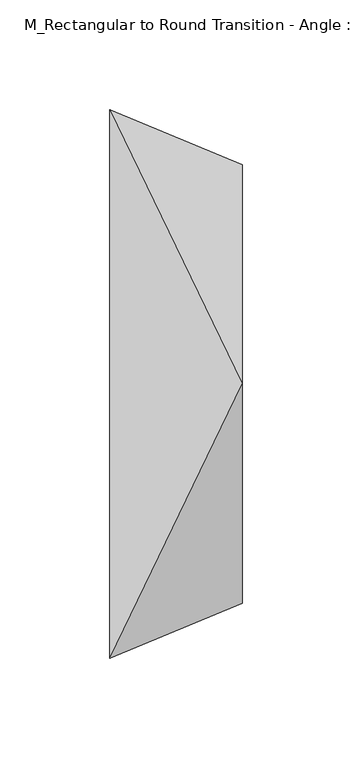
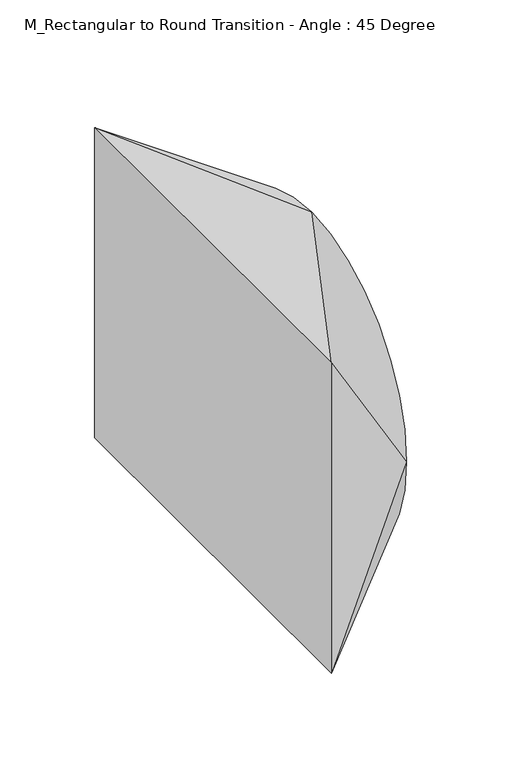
"""IFC4 building model written with IfcOpenShell, lengths in millimetres: duct fitting geometry, M_Rectangular to Round Transition - Angle : 45 Degree."""

from ifc_helpers import new_model, si_unit, frame, origin, place, context, project, spatial, circle_curve, source, transform, mapped, element, save
from ifc_brep_helpers import plane_surface, spline_surface, advanced_brep


def m_rectangular_to_round_transition_angle_45_degree_819e3a3e(model_context):
    return source(origin(), model_context, "Body", "AdvancedBrep", [
        advanced_brep(
        [(0.0, -125.0, -100.0), (0.0, -125.0, 100.0), (0.0, 125.0, 100.0), (0.0, 125.0, -100.0), (60.3553391, -100.0, -0.0013444), (60.3553391, 0.0, -100.0013444), (60.3553391, 100.0, -0.0013444), (60.3553391, 0.0, 99.9986556)],
        [
            (0, 1),
            (1, 2),
            (2, 3),
            (3, 0),
            (4, 5, circle_curve(frame((60.3553391, 0.0, -0.0013444), z_axis=(1.0, 0.0, 0.0), x_axis=(0.0, -1.0, 0.0)), 100.0)),
            (5, 6, circle_curve(frame((60.3553391, 0.0, -0.0013444), z_axis=(1.0, 0.0, 0.0), x_axis=(0.0, -1.0, 0.0)), 100.0)),
            (6, 7, circle_curve(frame((60.3553391, 0.0, -0.0013444), z_axis=(1.0, 0.0, 0.0), x_axis=(0.0, -1.0, 0.0)), 100.0)),
            (7, 4, circle_curve(frame((60.3553391, 0.0, -0.0013444), z_axis=(1.0, 0.0, 0.0), x_axis=(0.0, -1.0, 0.0)), 100.0)),
            (0, 4),
            (4, 1),
            (7, 1),
            (7, 2),
            (6, 2),
            (6, 3),
            (5, 3),
            (5, 0),
        ],
        [
            plane_surface(frame((0.0, 0.0, 0.0), z_axis=(-1.0, 0.0, 0.0), x_axis=(0.0, 1.0, 0.0))),
            plane_surface(frame((60.3553391, 0.0, -0.0013444), z_axis=(1.0, 0.0, 0.0), x_axis=(0.0, 1.0, 0.0))),
            plane_surface(frame((60.3553391, -100.0, -0.0013444), z_axis=(0.38268343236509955, -0.9238795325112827, 0.0), x_axis=(0.0, 0.0, 1.0))),
            spline_surface(2, 1, [[(60.3553391, -100.0, -0.0013444), (0.0, -125.0, 100.0)], [(60.3553391, -100.0, 99.9986556), (0.0, -125.0, 100.0)], [(60.3553391, 0.0, 99.9986556), (0.0, -125.0, 100.0)]], [3, 3], [2, 2], [0.0, 1.0], [0.0, 1.0], weights=[[1.0, 1.0], [0.7071067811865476, 0.7071067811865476], [1.0, 1.0]]),
            plane_surface(frame((60.3553391, 0.0, 99.9986556), z_axis=(2.227439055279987e-05, 0.0, 0.9999999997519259), x_axis=(0.0, 1.0, 0.0))),
            spline_surface(2, 1, [[(60.3553391, 0.0, 99.9986556), (0.0, 125.0, 100.0)], [(60.3553391, 100.0, 99.9986556), (0.0, 125.0, 100.0)], [(60.3553391, 100.0, -0.0013444), (0.0, 125.0, 100.0)]], [3, 3], [2, 2], [0.0, 1.0], [0.0, 1.0], weights=[[1.0, 1.0], [0.7071067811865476, 0.7071067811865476], [1.0, 1.0]]),
            plane_surface(frame((60.3553391, 100.0, -0.0013444), z_axis=(0.3826834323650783, 0.9238795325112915, 0.0), x_axis=(0.0, 0.0, -1.0))),
            spline_surface(2, 1, [[(60.3553391, 100.0, -0.0013444), (0.0, 125.0, -100.0)], [(60.3553391, 100.0, -100.0013444), (0.0, 125.0, -100.0)], [(60.3553391, 0.0, -100.0013444), (0.0, 125.0, -100.0)]], [3, 3], [2, 2], [0.0, 1.0], [0.0, 1.0], weights=[[1.0, 1.0], [0.7071067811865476, 0.7071067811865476], [1.0, 1.0]]),
            plane_surface(frame((60.3553391, 0.0, -100.0013444), z_axis=(-2.227439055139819e-05, 0.0, -0.9999999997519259), x_axis=(0.0, -1.0, 0.0))),
            spline_surface(2, 1, [[(60.3553391, 0.0, -100.0013444), (0.0, -125.0, -100.0)], [(60.3553391, -100.0, -100.0013444), (0.0, -125.0, -100.0)], [(60.3553391, -100.0, -0.0013444), (0.0, -125.0, -100.0)]], [3, 3], [2, 2], [0.0, 1.0], [0.0, 1.0], weights=[[1.0, 1.0], [0.7071067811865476, 0.7071067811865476], [1.0, 1.0]]),
        ],
        [
            (0, [[1, 2, 3, 4]]),
            (1, [[5, 6, 7, 8]]),
            (2, [[-1, 9, 10]]),
            (3, [[-8, 11, -10]]),
            (4, [[-2, -11, 12]]),
            (5, [[-7, 13, -12]]),
            (6, [[-3, -13, 14]]),
            (7, [[-6, 15, -14]]),
            (8, [[-4, -15, 16]]),
            (9, [[-5, -9, -16]]),
        ],
    ),
        advanced_brep(
        [(0.0, -125.0, -100.0), (0.0, -125.0, 100.0), (0.0, 125.0, 100.0), (0.0, 125.0, -100.0), (60.3553391, -100.0, -0.0013444), (60.3553391, 0.0, -100.0013444), (60.3553391, 100.0, -0.0013444), (60.3553391, 0.0, 99.9986556)],
        [
            (0, 1),
            (1, 2),
            (2, 3),
            (3, 0),
            (4, 5, circle_curve(frame((60.3553391, 0.0, -0.0013444), z_axis=(1.0, 0.0, 0.0), x_axis=(0.0, -1.0, 0.0)), 100.0)),
            (5, 6, circle_curve(frame((60.3553391, 0.0, -0.0013444), z_axis=(1.0, 0.0, 0.0), x_axis=(0.0, -1.0, 0.0)), 100.0)),
            (6, 7, circle_curve(frame((60.3553391, 0.0, -0.0013444), z_axis=(1.0, 0.0, 0.0), x_axis=(0.0, -1.0, 0.0)), 100.0)),
            (7, 4, circle_curve(frame((60.3553391, 0.0, -0.0013444), z_axis=(1.0, 0.0, 0.0), x_axis=(0.0, -1.0, 0.0)), 100.0)),
            (0, 4),
            (4, 1),
            (7, 1),
            (7, 2),
            (6, 2),
            (6, 3),
            (5, 3),
            (5, 0),
        ],
        [
            plane_surface(frame((0.0, 0.0, 0.0), z_axis=(-1.0, 0.0, 0.0), x_axis=(0.0, 1.0, 0.0))),
            plane_surface(frame((60.3553391, 0.0, -0.0013444), z_axis=(1.0, 0.0, 0.0), x_axis=(0.0, 1.0, 0.0))),
            plane_surface(frame((60.3553391, -100.0, -0.0013444), z_axis=(0.38268343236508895, -0.9238795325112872, 0.0), x_axis=(0.0, 0.0, 1.0))),
            spline_surface(2, 1, [[(60.3553391, -100.0, -0.0013444), (0.0, -125.0, 100.0)], [(60.3553391, -100.0, 99.9986556), (0.0, -125.0, 100.0)], [(60.3553391, 0.0, 99.9986556), (0.0, -125.0, 100.0)]], [3, 3], [2, 2], [0.0, 1.0], [0.0, 1.0], weights=[[1.0, 1.0], [0.7071067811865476, 0.7071067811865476], [1.0, 1.0]]),
            plane_surface(frame((60.3553391, 0.0, 99.9986556), z_axis=(2.2274390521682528e-05, 0.0, 0.9999999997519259), x_axis=(0.0, 1.0, 0.0))),
            spline_surface(2, 1, [[(60.3553391, 0.0, 99.9986556), (0.0, 125.0, 100.0)], [(60.3553391, 100.0, 99.9986556), (0.0, 125.0, 100.0)], [(60.3553391, 100.0, -0.0013444), (0.0, 125.0, 100.0)]], [3, 3], [2, 2], [0.0, 1.0], [0.0, 1.0], weights=[[1.0, 1.0], [0.7071067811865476, 0.7071067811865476], [1.0, 1.0]]),
            plane_surface(frame((60.3553391, 100.0, -0.0013444), z_axis=(0.38268343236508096, 0.9238795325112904, 0.0), x_axis=(0.0, 0.0, -1.0))),
            spline_surface(2, 1, [[(60.3553391, 100.0, -0.0013444), (0.0, 125.0, -100.0)], [(60.3553391, 100.0, -100.0013444), (0.0, 125.0, -100.0)], [(60.3553391, 0.0, -100.0013444), (0.0, 125.0, -100.0)]], [3, 3], [2, 2], [0.0, 1.0], [0.0, 1.0], weights=[[1.0, 1.0], [0.7071067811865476, 0.7071067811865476], [1.0, 1.0]]),
            plane_surface(frame((60.3553391, 0.0, -100.0013444), z_axis=(-2.2274390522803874e-05, 0.0, -0.9999999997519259), x_axis=(0.0, -1.0, 0.0))),
            spline_surface(2, 1, [[(60.3553391, 0.0, -100.0013444), (0.0, -125.0, -100.0)], [(60.3553391, -100.0, -100.0013444), (0.0, -125.0, -100.0)], [(60.3553391, -100.0, -0.0013444), (0.0, -125.0, -100.0)]], [3, 3], [2, 2], [0.0, 1.0], [0.0, 1.0], weights=[[1.0, 1.0], [0.7071067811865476, 0.7071067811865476], [1.0, 1.0]]),
        ],
        [
            (0, [[1, 2, 3, 4]]),
            (1, [[5, 6, 7, 8]]),
            (2, [[-1, 9, 10]]),
            (3, [[-8, 11, -10]]),
            (4, [[-2, -11, 12]]),
            (5, [[-7, 13, -12]]),
            (6, [[-3, -13, 14]]),
            (7, [[-6, 15, -14]]),
            (8, [[-4, -15, 16]]),
            (9, [[-5, -9, -16]]),
        ],
    ),
        advanced_brep(
        [(60.3553391, 0.0, 99.9986556), (60.3553391, -100.0, -0.0013444), (60.3553391, 0.0, -100.0013444), (60.3553391, 100.0, -0.0013444), (0.0, -125.0, 100.0), (0.0, 125.0, 100.0), (0.0, 125.0, -100.0), (0.0, -125.0, -100.0)],
        [
            (0, 1, circle_curve(frame((60.3553391, 0.0, -0.0013444), z_axis=(1.0, 0.0, 0.0), x_axis=(0.0, 1.0, 0.0)), 100.0)),
            (1, 2, circle_curve(frame((60.3553391, 0.0, -0.0013444), z_axis=(1.0, 0.0, 0.0), x_axis=(0.0, 1.0, 0.0)), 100.0)),
            (2, 3, circle_curve(frame((60.3553391, 0.0, -0.0013444), z_axis=(1.0, 0.0, 0.0), x_axis=(0.0, 1.0, 0.0)), 100.0)),
            (3, 0, circle_curve(frame((60.3553391, 0.0, -0.0013444), z_axis=(1.0, 0.0, 0.0), x_axis=(0.0, 1.0, 0.0)), 100.0)),
            (4, 5),
            (5, 6),
            (6, 7),
            (7, 4),
            (0, 4),
            (4, 1),
            (7, 1),
            (7, 2),
            (6, 2),
            (6, 3),
            (5, 3),
            (5, 0),
        ],
        [
            plane_surface(frame((60.3553391, 0.0, -0.0013444), z_axis=(1.0, 0.0, 0.0), x_axis=(0.0, 0.0, -1.0))),
            plane_surface(frame((0.0, 0.0, 0.0), z_axis=(-1.0, 0.0, 0.0), x_axis=(0.0, 0.0, -1.0))),
            spline_surface(2, 1, [[(0.0, -125.0, 100.0), (60.3553391, 0.0, 99.9986556)], [(0.0, -125.0, 100.0), (60.3553391, -100.0, 99.9986556)], [(0.0, -125.0, 100.0), (60.3553391, -100.0, -0.0013444)]], [3, 3], [2, 2], [0.0, 1.0], [0.0, 1.0], weights=[[1.0, 1.0], [0.7071067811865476, 0.7071067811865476], [1.0, 1.0]]),
            plane_surface(frame((0.0, -125.0, 0.0), z_axis=(0.38268343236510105, -0.9238795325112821, 0.0), x_axis=(0.0, 0.0, -1.0))),
            spline_surface(2, 1, [[(0.0, -125.0, -100.0), (60.3553391, -100.0, -0.0013444)], [(0.0, -125.0, -100.0), (60.3553391, -100.0, -100.0013444)], [(0.0, -125.0, -100.0), (60.3553391, 0.0, -100.0013444)]], [3, 3], [2, 2], [0.0, 1.0], [0.0, 1.0], weights=[[1.0, 1.0], [0.7071067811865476, 0.7071067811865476], [1.0, 1.0]]),
            plane_surface(frame((0.0, 0.0, -100.0), z_axis=(-2.2274390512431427e-05, 0.0, -0.9999999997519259), x_axis=(0.0, 1.0, 0.0))),
            spline_surface(2, 1, [[(0.0, 125.0, -100.0), (60.3553391, 0.0, -100.0013444)], [(0.0, 125.0, -100.0), (60.3553391, 100.0, -100.0013444)], [(0.0, 125.0, -100.0), (60.3553391, 100.0, -0.0013444)]], [3, 3], [2, 2], [0.0, 1.0], [0.0, 1.0], weights=[[1.0, 1.0], [0.7071067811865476, 0.7071067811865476], [1.0, 1.0]]),
            plane_surface(frame((0.0, 125.0, 0.0), z_axis=(0.38268343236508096, 0.9238795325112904, 0.0), x_axis=(0.0, 0.0, 1.0))),
            spline_surface(2, 1, [[(0.0, 125.0, 100.0), (60.3553391, 100.0, -0.0013444)], [(0.0, 125.0, 100.0), (60.3553391, 100.0, 99.9986556)], [(0.0, 125.0, 100.0), (60.3553391, 0.0, 99.9986556)]], [3, 3], [2, 2], [0.0, 1.0], [0.0, 1.0], weights=[[1.0, 1.0], [0.7071067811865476, 0.7071067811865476], [1.0, 1.0]]),
            plane_surface(frame((0.0, 0.0, 100.0), z_axis=(2.227439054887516e-05, 0.0, 0.9999999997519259), x_axis=(0.0, -1.0, 0.0))),
        ],
        [
            (0, [[1, 2, 3, 4]]),
            (1, [[5, 6, 7, 8]]),
            (2, [[-1, 9, 10]]),
            (3, [[-8, 11, -10]]),
            (4, [[-2, -11, 12]]),
            (5, [[-7, 13, -12]]),
            (6, [[-3, -13, 14]]),
            (7, [[-6, 15, -14]]),
            (8, [[-4, -15, 16]]),
            (9, [[-5, -9, -16]]),
        ],
    ),
    ])


if __name__ == "__main__":
    model = new_model("IFC4")
    model_context = context("Model", 3, world=origin())
    ifc_project = project(units=[si_unit("LENGTHUNIT", "METRE", prefix="MILLI")], contexts=[model_context])
    site = spatial("IfcSite", under=ifc_project)
    building = spatial("IfcBuilding", under=site)
    placement = place(None, origin())
    m_rectangular_to_round_transition_angle_45_degree_shape = m_rectangular_to_round_transition_angle_45_degree_819e3a3e(model_context)
    element("IfcDuctFitting", 1, ObjectType="M_Rectangular to Round Transition - Angle : 45 Degree", at=placement, inside=building, context=model_context, shape_type="MappedRepresentation", body=[
        mapped(m_rectangular_to_round_transition_angle_45_degree_shape, transform((0.0, 0.0, 0.0), x_axis=(1.0, 0.0, 0.0), y_axis=(0.0, 1.0, 0.0), z_axis=(0.0, 0.0, 1.0))),
    ])
    save(model, "model.ifc")
